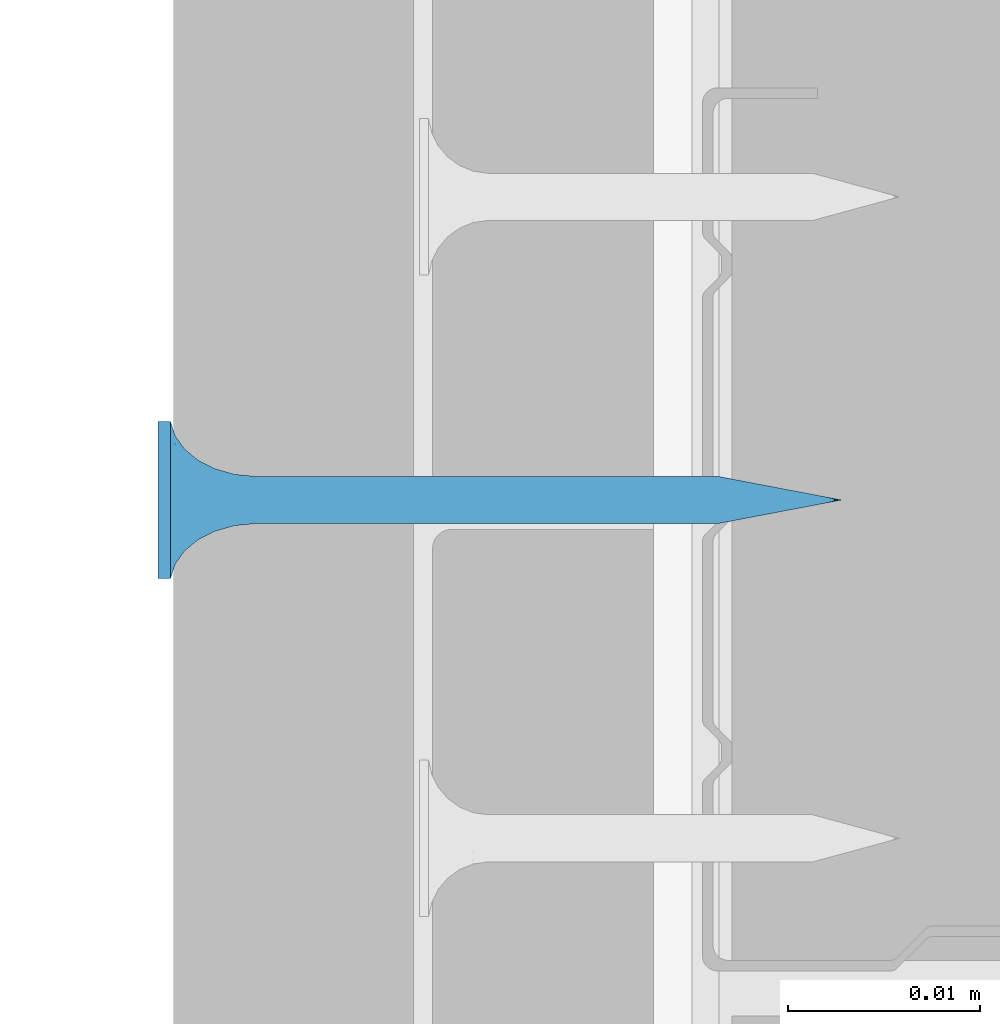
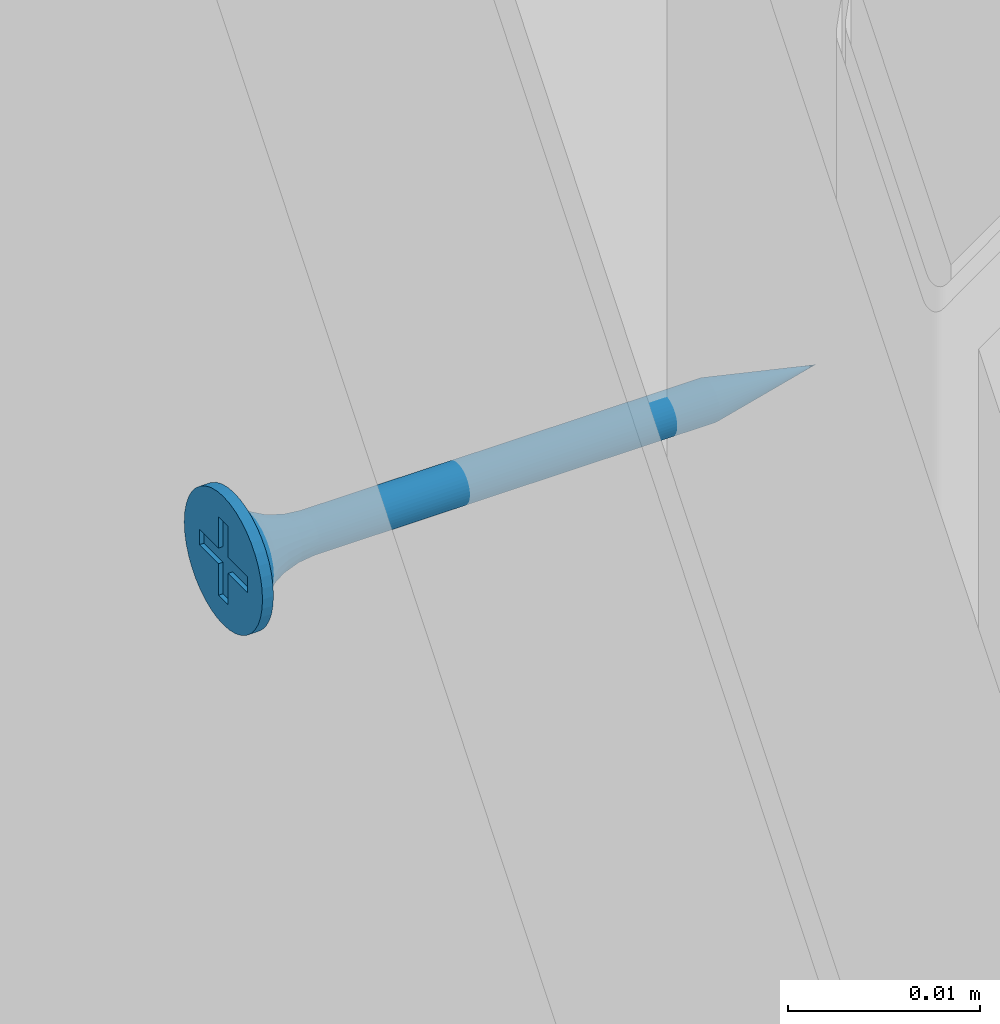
# One storey, part 58 of 92: 1 wall.
"""IFC2X3 building model written with IfcOpenShell, lengths in millimetres."""

from ifc_helpers import new_model, si_unit, frame, origin_with_axes, place, context, subcontext, project, spatial, faceted_brep, material, type_object, element, save


model = new_model("IFC2X3")

# Units and contexts
model_context = context("Model", 3, world=origin_with_axes())
body_context = subcontext(model_context, "Body", "Model", "MODEL_VIEW")
ifc_project = project(units=[si_unit("LENGTHUNIT", "METRE", prefix="MILLI"), si_unit("AREAUNIT", "SQUARE_METRE"), si_unit("VOLUMEUNIT", "CUBIC_METRE")], contexts=[model_context])

# Site, building, storey
site_placement = place(None, origin_with_axes())
site = spatial("IfcSite", under=ifc_project, at=site_placement, Name="Default Site", CompositionType="ELEMENT")
building_placement = place(site_placement, origin_with_axes())
building = spatial("IfcBuilding", under=site, at=building_placement, Name="Default Building", CompositionType="ELEMENT")
storey_placement = place(building_placement, origin_with_axes())
storey = spatial("IfcBuildingStorey", under=building, at=storey_placement, Name="Default Building Storey", CompositionType="ELEMENT", Elevation=0.0)

# Wall
ifc_material = material(Name="Default")
wall_type = type_object("IfcWallType", Name="Wkręt RIGIPS TN 35#32", PredefinedType="NOTDEFINED")
wall_placement = place(storey_placement, frame((4832.4514661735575, 602.0852645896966, -113.80620193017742), z_axis=(0.0, 0.0, 1.0), x_axis=(6.938893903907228e-17, -1.0, 0.0)))
element("IfcWall", 1, at=wall_placement, inside=storey, type_object=wall_type, material=ifc_material, Name="Wkręt RIGIPS TN 35", context=body_context, shape_type="Brep", body=[
    faceted_brep([(-141.48753293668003, -4832.598052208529, 555.1619773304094), (-141.48753293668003, -4833.259714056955, 555.1619773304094), (-141.5377465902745, -4833.259714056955, 555.8000000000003), (-141.5377465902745, -4832.598052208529, 555.8000000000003), (-141.33812900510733, -4832.598052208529, 554.539664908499), (-141.33812900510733, -4833.259714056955, 554.539664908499), (-141.09321328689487, -4832.598052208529, 553.948386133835), (-141.09321328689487, -4833.259714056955, 553.948386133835), (-140.75881656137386, -4832.598052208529, 553.4027002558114), (-140.75881656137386, -4833.259714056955, 553.4027002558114), (-140.34317265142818, -4833.259714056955, 552.9160436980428), (-140.45417279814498, -4832.598052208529, 553.031490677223), (-139.8565160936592, -4833.259714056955, 552.5003997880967), (-140.1080097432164, -4832.598052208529, 552.6986613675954), (-139.72512626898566, -4832.598052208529, 552.4088260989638), (-139.31083021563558, -4833.259714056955, 552.1660030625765), (-139.31083021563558, -4832.598052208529, 552.1660030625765), (-138.71955144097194, -4833.259714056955, 551.9210873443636), (-138.87086516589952, -4832.598052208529, 551.9735585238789), (-138.41133029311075, -4832.598052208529, 551.8341602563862), (-138.0972390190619, -4833.259714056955, 551.7716834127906), (-137.9385961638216, -4832.598052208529, 551.74974052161), (-137.45921634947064, -4833.259714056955, 551.7214697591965), (-137.45921634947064, -4832.598052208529, 551.7214697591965), (-136.82119367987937, -4832.598052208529, 551.7716834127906), (-136.82119367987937, -4833.259714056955, 551.7716834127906), (-136.19888125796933, -4832.598052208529, 551.9210873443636), (-136.19888125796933, -4833.259714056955, 551.9210873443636), (-135.6076024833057, -4832.598052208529, 552.1660030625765), (-135.6076024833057, -4833.259714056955, 552.1660030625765), (-135.06191660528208, -4832.598052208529, 552.5003997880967), (-135.06191660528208, -4833.259714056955, 552.5003997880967), (-134.57526004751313, -4832.598052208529, 552.9160436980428), (-134.57526004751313, -4833.259714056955, 552.9160436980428), (-134.1596161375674, -4832.598052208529, 553.4027002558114), (-134.1596161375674, -4833.259714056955, 553.4027002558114), (-133.8252194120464, -4832.598052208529, 553.948386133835), (-133.8252194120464, -4833.259714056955, 553.948386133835), (-133.58030369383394, -4832.598052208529, 554.539664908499), (-133.58030369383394, -4833.259714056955, 554.539664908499), (-133.3806861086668, -4833.259714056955, 555.8000000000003), (-133.3806861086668, -4832.598052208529, 555.8000000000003), (-133.43089976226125, -4832.598052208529, 556.4380226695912), (-133.43089976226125, -4833.259714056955, 556.4380226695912), (-133.43089976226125, -4833.259714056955, 555.1619773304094), (-133.43089976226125, -4832.598052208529, 555.1619773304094), (-133.58030369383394, -4832.598052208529, 557.0603350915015), (-133.58030369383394, -4833.259714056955, 557.0603350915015), (-133.8252194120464, -4832.598052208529, 557.6516138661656), (-133.8252194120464, -4833.259714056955, 557.6516138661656), (-134.1596161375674, -4832.598052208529, 558.1972997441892), (-134.1596161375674, -4833.259714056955, 558.1972997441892), (-134.57526004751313, -4832.598052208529, 558.6839563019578), (-134.57526004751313, -4833.259714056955, 558.6839563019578), (-135.06191660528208, -4832.598052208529, 559.0996002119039), (-135.06191660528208, -4833.259714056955, 559.0996002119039), (-135.6076024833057, -4832.598052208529, 559.4339969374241), (-135.6076024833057, -4833.259714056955, 559.4339969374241), (-136.19888125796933, -4832.598052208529, 559.678912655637), (-136.19888125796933, -4833.259714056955, 559.678912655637), (-136.82119367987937, -4832.598052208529, 559.82831658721), (-136.82119367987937, -4833.259714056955, 559.82831658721), (-137.45921634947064, -4832.598052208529, 559.8785302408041), (-137.45921634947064, -4833.259714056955, 559.8785302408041), (-138.0972390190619, -4832.598052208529, 559.82831658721), (-138.0972390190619, -4833.259714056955, 559.82831658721), (-138.71955144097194, -4832.598052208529, 559.678912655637), (-138.71955144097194, -4833.259714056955, 559.678912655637), (-139.31083021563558, -4832.598052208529, 559.4339969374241), (-139.31083021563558, -4833.259714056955, 559.4339969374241), (-139.8565160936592, -4832.598052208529, 559.0996002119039), (-139.8565160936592, -4833.259714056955, 559.0996002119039), (-140.34317265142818, -4832.598052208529, 558.6839563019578), (-140.34317265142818, -4833.259714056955, 558.6839563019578), (-140.75881656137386, -4832.598052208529, 558.1972997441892), (-140.75881656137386, -4833.259714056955, 558.1972997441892), (-141.09321328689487, -4832.598052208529, 557.6516138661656), (-141.09321328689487, -4833.259714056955, 557.6516138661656), (-141.33812900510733, -4832.598052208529, 557.0603350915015), (-141.33812900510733, -4833.259714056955, 557.0603350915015), (-141.48753293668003, -4832.598052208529, 556.4380226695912), (-141.48753293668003, -4833.259714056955, 556.4380226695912), (-137.65172779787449, -4828.206294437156, 554.5845305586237), (-137.45921634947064, -4828.206294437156, 554.5693795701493), (-137.8060615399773, -4829.281368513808, 554.505556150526), (-137.45921634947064, -4829.281368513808, 554.4598930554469), (-137.83949898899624, -4828.206294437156, 554.6296104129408), (-138.12926982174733, -4829.281368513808, 554.6394333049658), (-138.01790634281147, -4828.206294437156, 554.7035091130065), (-138.1825568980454, -4828.206294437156, 554.8044072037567), (-138.40681506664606, -4829.281368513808, 554.8524012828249), (-138.3293964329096, -4828.206294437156, 554.9298199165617), (-138.45480914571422, -4828.206294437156, 555.0766594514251), (-138.6197830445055, -4829.281368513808, 555.1299465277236), (-138.5557072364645, -4828.206294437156, 555.2413100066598), (-138.753660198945, -4829.281368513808, 555.453154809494), (-138.62960593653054, -4828.206294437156, 555.4197173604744), (-138.67468579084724, -4828.206294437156, 555.6074885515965), (-138.79932329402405, -4829.281368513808, 555.7999999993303), (-138.68983677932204, -4828.206294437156, 555.8000000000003), (-138.67468579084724, -4828.206294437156, 555.9925114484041), (-138.753660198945, -4829.281368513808, 556.1468451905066), (-138.62960593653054, -4828.206294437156, 556.1802826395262), (-138.6197830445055, -4829.281368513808, 556.470053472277), (-138.5557072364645, -4828.206294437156, 556.3586899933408), (-138.45480914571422, -4828.206294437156, 556.5233405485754), (-138.40681506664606, -4829.281368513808, 556.7475987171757), (-138.3293964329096, -4828.206294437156, 556.6701800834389), (-138.1825568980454, -4828.206294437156, 556.7955927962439), (-138.12926982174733, -4829.281368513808, 556.9605666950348), (-138.01790634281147, -4828.206294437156, 556.8964908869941), (-137.8060615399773, -4829.281368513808, 557.0944438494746), (-137.83949898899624, -4828.206294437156, 556.9703895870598), (-137.65172779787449, -4828.206294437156, 557.0154694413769), (-137.45921634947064, -4829.281368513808, 557.1401069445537), (-137.45921634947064, -4828.206294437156, 557.0306204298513), (-137.26670490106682, -4828.206294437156, 557.0154694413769), (-137.11237115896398, -4829.281368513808, 557.0944438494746), (-137.07893370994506, -4828.206294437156, 556.9703895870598), (-136.78916287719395, -4829.281368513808, 556.9605666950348), (-136.9005263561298, -4828.206294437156, 556.8964908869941), (-136.7358758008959, -4828.206294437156, 556.7955927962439), (-136.5116176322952, -4829.281368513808, 556.7475987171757), (-136.58903626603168, -4828.206294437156, 556.6701800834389), (-136.46362355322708, -4828.206294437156, 556.5233405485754), (-136.2986496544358, -4829.281368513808, 556.470053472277), (-136.36272546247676, -4828.206294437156, 556.3586899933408), (-136.16477249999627, -4829.281368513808, 556.1468451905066), (-136.28882676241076, -4828.206294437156, 556.1802826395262), (-136.24374690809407, -4828.206294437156, 555.9925114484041), (-136.11910940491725, -4829.281368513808, 555.7999999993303), (-136.22859591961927, -4828.206294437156, 555.8000000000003), (-136.24374690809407, -4828.206294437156, 555.6074885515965), (-136.16477249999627, -4829.281368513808, 555.453154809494), (-136.28882676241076, -4828.206294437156, 555.4197173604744), (-136.2986496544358, -4829.281368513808, 555.1299465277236), (-136.36272546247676, -4828.206294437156, 555.2413100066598), (-136.46362355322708, -4828.206294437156, 555.0766594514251), (-136.5116176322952, -4829.281368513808, 554.8524012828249), (-136.58903626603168, -4828.206294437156, 554.9298199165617), (-136.7358758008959, -4828.206294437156, 554.8044072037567), (-136.78916287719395, -4829.281368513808, 554.6394333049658), (-136.9005263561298, -4828.206294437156, 554.7035091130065), (-137.11237115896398, -4829.281368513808, 554.505556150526), (-137.07893370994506, -4828.206294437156, 554.6296104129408), (-137.26670490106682, -4828.206294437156, 554.5845305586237), (-137.45921634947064, -4830.288222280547, 554.1737111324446), (-137.88013087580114, -4830.288222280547, 554.2291255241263), (-138.2723607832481, -4830.288222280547, 554.3915925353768), (-138.60917621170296, -4830.288222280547, 554.650040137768), (-138.8676238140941, -4830.288222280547, 554.9868555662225), (-139.03009082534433, -4830.288222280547, 555.3790854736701), (-139.08550521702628, -4830.288222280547, 555.7999999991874), (-139.03009082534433, -4830.288222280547, 556.2209145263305), (-138.8676238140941, -4830.288222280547, 556.6131444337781), (-138.60917621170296, -4830.288222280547, 556.9499598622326), (-138.2723607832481, -4830.288222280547, 557.2084074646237), (-137.88013087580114, -4830.288222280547, 557.3708744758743), (-137.45921634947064, -4830.288222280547, 557.426288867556), (-137.03830182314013, -4830.288222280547, 557.3708744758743), (-136.64607191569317, -4830.288222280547, 557.2084074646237), (-136.30925648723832, -4830.288222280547, 556.9499598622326), (-136.05080888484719, -4830.288222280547, 556.6131444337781), (-135.88834187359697, -4830.288222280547, 556.2209145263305), (-135.832927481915, -4830.288222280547, 555.7999999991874), (-135.88834187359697, -4830.288222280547, 555.3790854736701), (-136.05080888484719, -4830.288222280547, 554.9868555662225), (-136.30925648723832, -4830.288222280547, 554.650040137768), (-136.64607191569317, -4830.288222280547, 554.3915925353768), (-137.03830182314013, -4830.288222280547, 554.2291255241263), (-137.45921634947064, -4831.168773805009, 553.7273430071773), (-137.99565943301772, -4831.168773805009, 553.7979670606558), (-138.49554484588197, -4831.168773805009, 554.0050264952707), (-138.92480608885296, -4831.168773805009, 554.3344102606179), (-139.25418985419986, -4831.168773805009, 554.763671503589), (-139.46124928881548, -4831.168773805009, 555.2635569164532), (-139.53187334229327, -4831.168773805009, 555.799999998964), (-139.46124928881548, -4831.168773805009, 556.3364430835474), (-139.25418985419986, -4831.168773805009, 556.8363284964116), (-138.92480608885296, -4831.168773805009, 557.2655897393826), (-138.49554484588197, -4831.168773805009, 557.5949735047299), (-137.99565943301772, -4831.168773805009, 557.8020329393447), (-137.45921634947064, -4831.168773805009, 557.8726569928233), (-136.92277326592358, -4831.168773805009, 557.8020329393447), (-136.42288785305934, -4831.168773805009, 557.5949735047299), (-135.9936266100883, -4831.168773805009, 557.2655897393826), (-135.6642428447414, -4831.168773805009, 556.8363284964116), (-135.45718341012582, -4831.168773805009, 556.3364430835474), (-135.386559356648, -4831.168773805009, 555.799999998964), (-135.45718341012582, -4831.168773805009, 555.2635569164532), (-135.6642428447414, -4831.168773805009, 554.763671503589), (-135.9936266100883, -4831.168773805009, 554.3344102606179), (-136.42288785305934, -4831.168773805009, 554.0050264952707), (-136.92277326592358, -4831.168773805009, 553.7979670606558), (-137.45921634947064, -4831.872222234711, 553.1465392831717), (-138.14598252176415, -4831.872222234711, 553.2369539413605), (-138.78594670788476, -4831.872222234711, 553.5020355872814), (-139.33549641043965, -4831.872222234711, 553.9237199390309), (-139.75718076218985, -4831.872222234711, 554.4732696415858), (-140.02226240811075, -4831.872222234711, 555.1132338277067), (-140.11267706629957, -4831.872222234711, 555.7999999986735), (-140.02226240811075, -4831.872222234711, 556.4867661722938), (-139.75718076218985, -4831.872222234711, 557.1267303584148), (-139.33549641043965, -4831.872222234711, 557.6762800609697), (-138.78594670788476, -4831.872222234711, 558.0979644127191), (-138.14598252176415, -4831.872222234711, 558.3630460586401), (-137.45921634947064, -4831.872222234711, 558.4534607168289), (-136.77245017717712, -4831.872222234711, 558.3630460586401), (-136.13248599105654, -4831.872222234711, 558.0979644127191), (-135.58293628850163, -4831.872222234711, 557.6762800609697), (-135.16125193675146, -4831.872222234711, 557.1267303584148), (-134.89617029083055, -4831.872222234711, 556.4867661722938), (-134.8057556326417, -4831.872222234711, 555.7999999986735), (-134.89617029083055, -4831.872222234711, 555.1132338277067), (-135.16125193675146, -4831.872222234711, 554.4732696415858), (-135.58293628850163, -4831.872222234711, 553.9237199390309), (-136.13248599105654, -4831.872222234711, 553.5020355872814), (-136.77245017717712, -4831.872222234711, 553.2369539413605), (-137.45921634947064, -4832.357990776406, 552.4648055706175), (-138.3224281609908, -4832.357990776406, 552.5784495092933), (-139.12681356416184, -4832.357990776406, 552.9116369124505), (-139.8175549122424, -4832.357990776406, 553.4416614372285), (-140.34757943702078, -4832.357990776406, 554.1324027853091), (-140.680766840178, -4832.357990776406, 554.9367881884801), (-140.79441077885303, -4832.357990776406, 555.7999999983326), (-140.680766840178, -4832.357990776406, 556.6632118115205), (-140.34757943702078, -4832.357990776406, 557.4675972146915), (-139.8175549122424, -4832.357990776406, 558.1583385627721), (-139.12681356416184, -4832.357990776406, 558.6883630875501), (-138.3224281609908, -4832.357990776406, 559.0215504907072), (-137.45921634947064, -4832.357990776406, 559.1351944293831), (-136.5960045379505, -4832.357990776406, 559.0215504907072), (-135.79161913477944, -4832.357990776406, 558.6883630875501), (-135.10087778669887, -4832.357990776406, 558.1583385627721), (-134.5708532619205, -4832.357990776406, 557.4675972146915), (-134.23766585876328, -4832.357990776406, 556.6632118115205), (-134.12402192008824, -4832.357990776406, 555.7999999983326), (-134.23766585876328, -4832.357990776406, 554.9367881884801), (-134.5708532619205, -4832.357990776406, 554.1324027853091), (-135.10087778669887, -4832.357990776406, 553.4416614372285), (-135.79161913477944, -4832.357990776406, 552.9116369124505), (-136.5960045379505, -4832.357990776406, 552.5784495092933), (-138.67468579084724, -4804.0937578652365, 555.6074885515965), (-138.68983677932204, -4804.0937578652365, 555.8000000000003), (-138.62960593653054, -4804.0937578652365, 555.4197173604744), (-138.5557072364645, -4804.0937578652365, 555.2413100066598), (-138.45480914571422, -4804.0937578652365, 555.0766594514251), (-138.3293964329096, -4804.0937578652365, 554.9298199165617), (-138.1825568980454, -4804.0937578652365, 554.8044072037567), (-138.01790634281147, -4804.0937578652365, 554.7035091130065), (-137.83949898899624, -4804.0937578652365, 554.6296104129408), (-137.65172779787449, -4804.0937578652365, 554.5845305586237), (-137.45921634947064, -4804.0937578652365, 554.5693795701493), (-137.26670490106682, -4804.0937578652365, 554.5845305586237), (-137.07893370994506, -4804.0937578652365, 554.6296104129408), (-136.9005263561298, -4804.0937578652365, 554.7035091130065), (-136.7358758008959, -4804.0937578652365, 554.8044072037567), (-136.58903626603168, -4804.0937578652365, 554.9298199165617), (-136.46362355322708, -4804.0937578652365, 555.0766594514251), (-136.36272546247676, -4804.0937578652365, 555.2413100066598), (-136.28882676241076, -4804.0937578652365, 555.4197173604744), (-136.22859591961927, -4804.0937578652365, 555.8000000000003), (-136.24374690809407, -4804.0937578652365, 555.9925114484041), (-136.24374690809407, -4804.0937578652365, 555.6074885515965), (-136.28882676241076, -4804.0937578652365, 556.1802826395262), (-136.36272546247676, -4804.0937578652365, 556.3586899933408), (-136.46362355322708, -4804.0937578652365, 556.5233405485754), (-136.58903626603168, -4804.0937578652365, 556.6701800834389), (-136.7358758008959, -4804.0937578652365, 556.7955927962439), (-136.9005263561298, -4804.0937578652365, 556.8964908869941), (-137.07893370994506, -4804.0937578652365, 556.9703895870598), (-137.26670490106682, -4804.0937578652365, 557.0154694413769), (-137.45921634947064, -4804.0937578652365, 557.0306204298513), (-137.65172779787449, -4804.0937578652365, 557.0154694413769), (-137.83949898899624, -4804.0937578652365, 556.9703895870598), (-138.01790634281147, -4804.0937578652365, 556.8964908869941), (-138.1825568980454, -4804.0937578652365, 556.7955927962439), (-138.3293964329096, -4804.0937578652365, 556.6701800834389), (-138.45480914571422, -4804.0937578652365, 556.5233405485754), (-138.5557072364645, -4804.0937578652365, 556.3586899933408), (-138.62960593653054, -4804.0937578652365, 556.1802826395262), (-138.67468579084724, -4804.0937578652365, 555.9925114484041), (-137.45921634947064, -4797.627062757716, 555.8000000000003), (-139.95921629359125, -4833.259714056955, 555.2999999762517), (-139.95921629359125, -4833.259714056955, 556.3000000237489), (-137.95921637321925, -4833.259714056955, 556.3000000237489), (-137.95921637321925, -4833.259714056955, 558.2999999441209), (-136.95921632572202, -4833.259714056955, 558.2999999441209), (-136.95921632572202, -4833.259714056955, 556.3000000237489), (-134.95921640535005, -4833.259714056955, 556.3000000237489), (-134.95921640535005, -4833.259714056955, 555.2999999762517), (-136.95921632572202, -4833.259714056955, 555.2999999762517), (-136.95921632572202, -4833.259714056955, 553.3000000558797), (-137.95921637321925, -4833.259714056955, 553.3000000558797), (-137.95921637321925, -4833.259714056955, 555.2999999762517), (-136.95921632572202, -4832.988378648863, 558.2999999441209), (-137.95921637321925, -4832.988378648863, 558.2999999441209), (-137.95921637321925, -4832.988378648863, 556.3000000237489), (-139.95921629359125, -4832.988378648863, 556.3000000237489), (-139.95921629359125, -4832.988378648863, 555.2999999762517), (-137.95921637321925, -4832.988378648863, 555.2999999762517), (-137.95921637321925, -4832.988378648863, 553.3000000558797), (-136.95921632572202, -4832.988378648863, 553.3000000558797), (-136.95921632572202, -4832.988378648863, 555.2999999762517), (-134.95921640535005, -4832.988378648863, 555.2999999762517), (-134.95921640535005, -4832.988378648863, 556.3000000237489), (-136.95921632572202, -4832.988378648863, 556.3000000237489)], [[[0, 1, 2, 3]], [[1, 0, 4, 5]], [[5, 4, 6, 7]], [[8, 9, 7, 6]], [[8, 10, 9]], [[8, 11, 10]], [[12, 11, 13]], [[12, 10, 11]], [[13, 14, 12]], [[14, 15, 12]], [[14, 16, 15]], [[17, 16, 18]], [[17, 15, 16]], [[18, 19, 17]], [[20, 19, 21]], [[20, 17, 19]], [[21, 22, 20]], [[21, 23, 22]], [[24, 25, 22, 23]], [[25, 24, 26, 27]], [[27, 26, 28, 29]], [[30, 31, 29, 28]], [[31, 30, 32, 33]], [[34, 35, 33, 32]], [[35, 34, 36, 37]], [[37, 36, 38, 39]], [[40, 41, 42, 43]], [[44, 45, 41, 40]], [[45, 44, 39, 38]], [[43, 42, 46, 47]], [[47, 46, 48, 49]], [[50, 51, 49, 48]], [[51, 50, 52, 53]], [[54, 55, 53, 52]], [[55, 54, 56, 57]], [[57, 56, 58, 59]], [[60, 61, 59, 58]], [[61, 60, 62, 63]], [[64, 65, 63, 62]], [[65, 64, 66, 67]], [[67, 66, 68, 69]], [[70, 71, 69, 68]], [[71, 70, 72, 73]], [[74, 75, 73, 72]], [[75, 74, 76, 77]], [[77, 76, 78, 79]], [[80, 81, 79, 78]], [[81, 80, 3, 2]], [[82, 83, 84]], [[83, 85, 84]], [[84, 86, 82]], [[84, 87, 88, 86]], [[89, 88, 87]], [[87, 90, 89]], [[90, 91, 89]], [[92, 91, 93]], [[91, 90, 93]], [[93, 94, 92]], [[93, 95, 96, 94]], [[97, 96, 95]], [[95, 98, 97]], [[98, 99, 97]], [[100, 99, 101]], [[99, 98, 101]], [[101, 102, 100]], [[101, 103, 104, 102]], [[105, 104, 103]], [[103, 106, 105]], [[106, 107, 105]], [[108, 107, 109]], [[107, 106, 109]], [[109, 110, 108]], [[109, 111, 112, 110]], [[113, 112, 111]], [[111, 114, 113]], [[114, 115, 113]], [[116, 115, 117]], [[115, 114, 117]], [[117, 118, 116]], [[117, 119, 120, 118]], [[121, 120, 119]], [[119, 122, 121]], [[122, 123, 121]], [[124, 123, 125]], [[123, 122, 125]], [[125, 126, 124]], [[125, 127, 128, 126]], [[129, 128, 127]], [[127, 130, 129]], [[130, 131, 129]], [[132, 131, 133]], [[131, 130, 133]], [[133, 134, 132]], [[133, 135, 136, 134]], [[137, 136, 135]], [[135, 138, 137]], [[138, 139, 137]], [[140, 139, 141]], [[139, 138, 141]], [[141, 142, 140]], [[141, 143, 144, 142]], [[145, 144, 143]], [[143, 85, 145]], [[85, 83, 145]], [[146, 147, 84, 85]], [[84, 147, 148, 87]], [[87, 148, 149, 90]], [[90, 149, 150, 93]], [[93, 150, 151, 95]], [[95, 151, 152, 98]], [[98, 152, 153, 101]], [[101, 153, 154, 103]], [[103, 154, 155, 106]], [[106, 155, 156, 109]], [[109, 156, 157, 111]], [[111, 157, 158, 114]], [[114, 158, 159, 117]], [[117, 159, 160, 119]], [[119, 160, 161, 122]], [[122, 161, 162, 125]], [[125, 162, 163, 127]], [[127, 163, 164, 130]], [[130, 164, 165, 133]], [[133, 165, 166, 135]], [[135, 166, 167, 138]], [[138, 167, 168, 141]], [[141, 168, 169, 143]], [[143, 169, 146, 85]], [[170, 171, 147, 146]], [[147, 171, 172, 148]], [[148, 172, 173, 149]], [[149, 173, 174, 150]], [[150, 174, 175, 151]], [[151, 175, 176, 152]], [[152, 176, 177, 153]], [[153, 177, 178, 154]], [[154, 178, 179, 155]], [[155, 179, 180, 156]], [[156, 180, 181, 157]], [[157, 181, 182, 158]], [[158, 182, 183, 159]], [[159, 183, 184, 160]], [[160, 184, 185, 161]], [[161, 185, 186, 162]], [[162, 186, 187, 163]], [[163, 187, 188, 164]], [[164, 188, 189, 165]], [[165, 189, 190, 166]], [[166, 190, 191, 167]], [[167, 191, 192, 168]], [[168, 192, 193, 169]], [[169, 193, 170, 146]], [[194, 195, 171, 170]], [[171, 195, 196, 172]], [[172, 196, 197, 173]], [[173, 197, 198, 174]], [[174, 198, 199, 175]], [[175, 199, 200, 176]], [[176, 200, 201, 177]], [[177, 201, 202, 178]], [[178, 202, 203, 179]], [[179, 203, 204, 180]], [[180, 204, 205, 181]], [[181, 205, 206, 182]], [[182, 206, 207, 183]], [[183, 207, 208, 184]], [[184, 208, 209, 185]], [[185, 209, 210, 186]], [[186, 210, 211, 187]], [[187, 211, 212, 188]], [[188, 212, 213, 189]], [[189, 213, 214, 190]], [[190, 214, 215, 191]], [[191, 215, 216, 192]], [[192, 216, 217, 193]], [[193, 217, 194, 170]], [[21, 19, 218]], [[19, 219, 218]], [[218, 23, 21]], [[218, 219, 195, 194]], [[18, 16, 219]], [[16, 220, 219]], [[219, 19, 18]], [[195, 219, 220, 196]], [[13, 11, 221]], [[14, 13, 220]], [[13, 221, 220]], [[220, 16, 14]], [[196, 220, 221, 197]], [[8, 6, 222]], [[222, 221, 8]], [[221, 11, 8]], [[197, 221, 222, 198]], [[4, 223, 222, 6]], [[198, 222, 223, 199]], [[0, 3, 223]], [[3, 224, 223]], [[223, 4, 0]], [[199, 223, 224, 200]], [[80, 78, 225]], [[225, 224, 80]], [[224, 3, 80]], [[200, 224, 225, 201]], [[78, 76, 226, 225]], [[201, 225, 226, 202]], [[74, 72, 226]], [[72, 227, 226]], [[226, 76, 74]], [[202, 226, 227, 203]], [[70, 68, 228]], [[228, 227, 70]], [[227, 72, 70]], [[203, 227, 228, 204]], [[68, 66, 229, 228]], [[204, 228, 229, 205]], [[64, 62, 229]], [[62, 230, 229]], [[229, 66, 64]], [[205, 229, 230, 206]], [[60, 58, 231]], [[231, 230, 60]], [[230, 62, 60]], [[206, 230, 231, 207]], [[58, 56, 232, 231]], [[207, 231, 232, 208]], [[54, 52, 232]], [[52, 233, 232]], [[232, 56, 54]], [[208, 232, 233, 209]], [[50, 48, 234]], [[234, 233, 50]], [[233, 52, 50]], [[209, 233, 234, 210]], [[48, 46, 235, 234]], [[210, 234, 235, 211]], [[42, 41, 235]], [[41, 236, 235]], [[235, 46, 42]], [[211, 235, 236, 212]], [[45, 38, 237]], [[237, 236, 45]], [[236, 41, 45]], [[212, 236, 237, 213]], [[36, 238, 237, 38]], [[213, 237, 238, 214]], [[34, 32, 238]], [[32, 239, 238]], [[238, 36, 34]], [[214, 238, 239, 215]], [[30, 28, 240]], [[240, 239, 30]], [[239, 32, 30]], [[215, 239, 240, 216]], [[26, 241, 240, 28]], [[216, 240, 241, 217]], [[217, 241, 218, 194]], [[24, 23, 241]], [[23, 218, 241]], [[241, 26, 24]], [[242, 97, 99, 243]], [[97, 242, 244, 96]], [[96, 244, 245, 94]], [[246, 92, 94, 245]], [[92, 246, 247, 91]], [[248, 89, 91, 247]], [[89, 248, 249, 88]], [[88, 249, 250, 86]], [[251, 82, 86, 250]], [[82, 251, 252, 83]], [[253, 145, 83, 252]], [[145, 253, 254, 144]], [[144, 254, 255, 142]], [[256, 140, 142, 255]], [[140, 256, 257, 139]], [[258, 137, 139, 257]], [[137, 258, 259, 136]], [[136, 259, 260, 134]], [[131, 261, 262, 129]], [[132, 263, 261, 131]], [[263, 132, 134, 260]], [[129, 262, 264, 128]], [[128, 264, 265, 126]], [[266, 124, 126, 265]], [[124, 266, 267, 123]], [[268, 121, 123, 267]], [[121, 268, 269, 120]], [[120, 269, 270, 118]], [[271, 116, 118, 270]], [[116, 271, 272, 115]], [[273, 113, 115, 272]], [[113, 273, 274, 112]], [[112, 274, 275, 110]], [[276, 108, 110, 275]], [[108, 276, 277, 107]], [[278, 105, 107, 277]], [[105, 278, 279, 104]], [[104, 279, 280, 102]], [[281, 100, 102, 280]], [[100, 281, 243, 99]], [[282, 244, 242]], [[242, 243, 282]], [[282, 245, 244]], [[282, 247, 246]], [[246, 245, 282]], [[282, 249, 248]], [[248, 247, 282]], [[282, 250, 249]], [[282, 252, 251]], [[251, 250, 282]], [[282, 254, 253]], [[253, 252, 282]], [[282, 255, 254]], [[282, 257, 256]], [[256, 255, 282]], [[282, 259, 258]], [[258, 257, 282]], [[282, 260, 259]], [[282, 261, 263]], [[263, 260, 282]], [[282, 264, 262]], [[262, 261, 282]], [[282, 265, 264]], [[282, 267, 266]], [[266, 265, 282]], [[282, 269, 268]], [[268, 267, 282]], [[282, 270, 269]], [[282, 272, 271]], [[271, 270, 282]], [[282, 274, 273]], [[273, 272, 282]], [[282, 275, 274]], [[282, 277, 276]], [[276, 275, 282]], [[282, 279, 278]], [[278, 277, 282]], [[282, 280, 279]], [[282, 243, 281]], [[281, 280, 282]], [[75, 77, 79, 81, 2, 1, 5, 7, 9, 10, 12, 15, 17, 20, 22, 25, 27, 29, 31, 33, 35, 37, 39, 44, 40, 43, 47, 49, 51, 53, 55, 57, 59, 61, 63, 65, 67, 69, 71, 73], [283, 284, 285, 286, 287, 288, 289, 290, 291, 292, 293, 294]], [[295, 296, 297, 298, 299, 300, 301, 302, 303, 304, 305, 306]], [[303, 291, 290, 304]], [[304, 290, 289, 305]], [[305, 289, 288, 306]], [[306, 288, 287, 295]], [[295, 287, 286, 296]], [[296, 286, 285, 297]], [[297, 285, 284, 298]], [[298, 284, 283, 299]], [[299, 283, 294, 300]], [[300, 294, 293, 301]], [[301, 293, 292, 302]], [[302, 292, 291, 303]]]),
])

save(model, "model.ifc")
